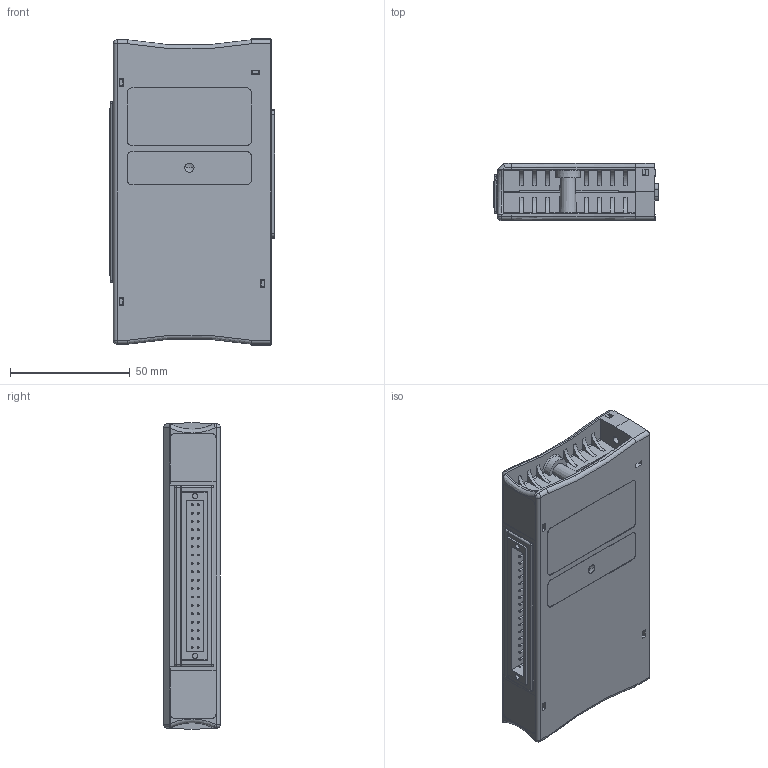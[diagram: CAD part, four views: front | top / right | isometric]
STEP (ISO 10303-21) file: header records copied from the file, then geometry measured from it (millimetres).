
FILE_DESCRIPTION((''),'2;1');
FILE_NAME('CD_CFP-CB2','2008-06-26T',('scarrasc'),(''),'PRO/ENGINEER BY PARAMETRIC TECHNOLOGY CORPORATION, 2006300','PRO/ENGINEER BY PARAMETRIC TECHNOLOGY CORPORATION, 2006300','');
FILE_SCHEMA(('CONFIG_CONTROL_DESIGN'));
Products named in the file (1): CD_CFP-CB2
Bounding box: 69.17 x 23.62 x 127.97 mm (x, y, z)
Volume: 71965.9 mm3; surface area: 60675.4 mm2
Topology: 3 solids, 3 shells, 2138 faces, 5771 edges, 3533 vertices
Faces by surface type: plane 1339, cylinder 517, cone 212, sphere 22, torus 20, bspline 20, extrusion 8
Entity records: 67048 total; most frequent: CARTESIAN_POINT 15521, ORIENTED_EDGE 10942, DIRECTION 10022, EDGE_CURVE 5471, VECTOR 4022, LINE 4014, VERTEX_POINT 3533, AXIS2_PLACEMENT_3D 3000
